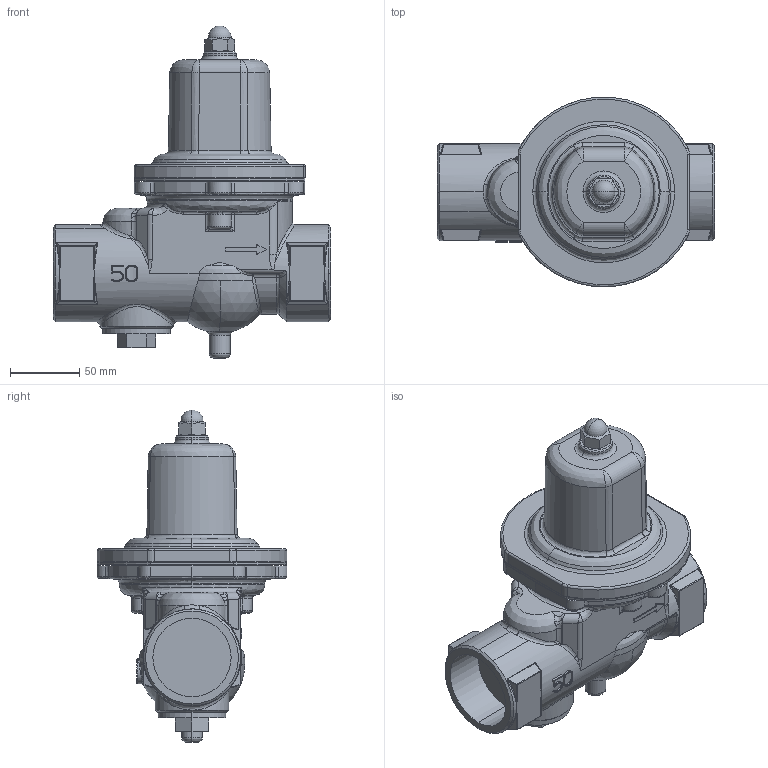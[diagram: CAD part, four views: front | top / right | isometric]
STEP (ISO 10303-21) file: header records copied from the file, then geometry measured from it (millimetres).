
FILE_DESCRIPTION( (''), '2;1');
FILE_NAME ('PC1027.4860.GD-28-NE　50A_29040.stp','2025-07-25T17:45:59',(''),(''),'spGate 19.8.4 (****-****-****-****)','','');
FILE_SCHEMA (('AUTOMOTIVE_DESIGN'));
Length unit declared in the file: millimetre
Products named in the file (6): Assembly; GD-26-NE ダイヤフラム 50A; GD-26-NE 保護筒 50A; GD-26-NE 六角袋ナット 32-50A; GD-26-NE ストレーナキャップ 32-50A; GD-28-NE 弁箱 50A
Assembly tree (5 placements, depth 2):
  Assembly
    GD-26-NE ダイヤフラム 50A
    GD-26-NE 保護筒 50A
    GD-26-NE 六角袋ナット 32-50A
    GD-26-NE ストレーナキャップ 32-50A
    GD-28-NE 弁箱 50A
Bounding box: 200 x 136.99 x 239.5 mm (x, y, z)
Volume: 1547486.9 mm3; surface area: 176482.6 mm2
Topology: 5 solids, 5 shells, 573 faces, 1388 edges, 789 vertices
Faces by surface type: bspline 268, cylinder 166, plane 99, sphere 40
Full cylindrical faces by diameter (mm): 18 x1
Entity records: 37949 total; most frequent: CARTESIAN_POINT 15995, ORIENTED_EDGE 2662, COLOUR_RGB 1909, PRESENTATION_STYLE_ASSIGNMENT 1909, STYLED_ITEM 1909, DIRECTION 1868, EDGE_CURVE 1331, DRAUGHTING_PRE_DEFINED_CURVE_FONT 1331
